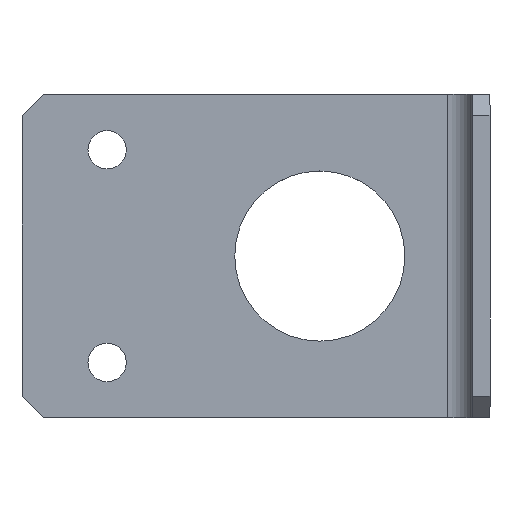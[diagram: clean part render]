
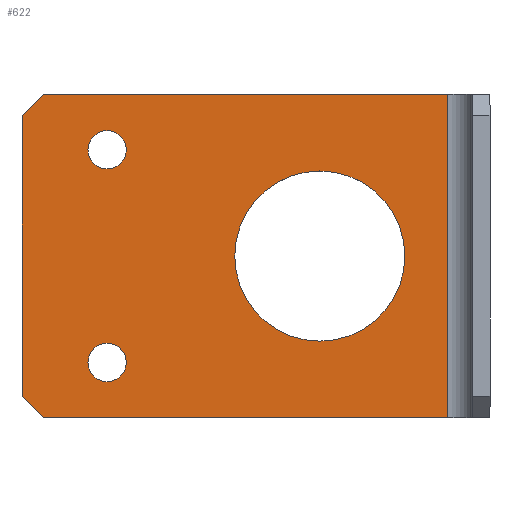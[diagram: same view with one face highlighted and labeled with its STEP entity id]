
A CAD part, top view. The second image highlights one B-rep face of the part: STEP entity #622.
In plain terms, the highlighted planar face has unit normal (0, 0, 1).
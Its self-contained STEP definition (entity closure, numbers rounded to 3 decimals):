
#90=FACE_BOUND('',#161,.T.);
#91=FACE_BOUND('',#162,.T.);
#92=FACE_BOUND('',#163,.T.);
#108=PLANE('',#679);
#129=FACE_OUTER_BOUND('',#160,.T.);
#160=EDGE_LOOP('',(#488,#489,#490,#491,#492,#493));
#161=EDGE_LOOP('',(#494));
#162=EDGE_LOOP('',(#495));
#163=EDGE_LOOP('',(#496));
#208=LINE('',#936,#265);
#212=LINE('',#944,#269);
#215=LINE('',#950,#272);
#216=LINE('',#952,#273);
#217=LINE('',#954,#274);
#218=LINE('',#955,#275);
#265=VECTOR('',#760,10.);
#269=VECTOR('',#766,10.);
#272=VECTOR('',#771,10.);
#273=VECTOR('',#772,10.);
#274=VECTOR('',#773,10.);
#275=VECTOR('',#774,10.);
#309=CIRCLE('',#670,20.);
#312=CIRCLE('',#680,4.5);
#313=CIRCLE('',#681,4.5);
#332=VERTEX_POINT('',#899);
#345=VERTEX_POINT('',#934);
#346=VERTEX_POINT('',#935);
#349=VERTEX_POINT('',#943);
#351=VERTEX_POINT('',#949);
#352=VERTEX_POINT('',#951);
#353=VERTEX_POINT('',#953);
#354=VERTEX_POINT('',#956);
#355=VERTEX_POINT('',#958);
#383=EDGE_CURVE('',#332,#332,#309,.T.);
#399=EDGE_CURVE('',#345,#346,#208,.T.);
#403=EDGE_CURVE('',#346,#349,#212,.T.);
#406=EDGE_CURVE('',#345,#351,#215,.T.);
#407=EDGE_CURVE('',#351,#352,#216,.T.);
#408=EDGE_CURVE('',#353,#352,#217,.T.);
#409=EDGE_CURVE('',#349,#353,#218,.T.);
#410=EDGE_CURVE('',#354,#354,#312,.T.);
#411=EDGE_CURVE('',#355,#355,#313,.T.);
#488=ORIENTED_EDGE('',*,*,#399,.F.);
#489=ORIENTED_EDGE('',*,*,#406,.T.);
#490=ORIENTED_EDGE('',*,*,#407,.T.);
#491=ORIENTED_EDGE('',*,*,#408,.F.);
#492=ORIENTED_EDGE('',*,*,#409,.F.);
#493=ORIENTED_EDGE('',*,*,#403,.F.);
#494=ORIENTED_EDGE('',*,*,#383,.T.);
#495=ORIENTED_EDGE('',*,*,#410,.T.);
#496=ORIENTED_EDGE('',*,*,#411,.T.);
#622=ADVANCED_FACE('',(#129,#90,#91,#92),#108,.T.);
#670=AXIS2_PLACEMENT_3D('',#901,#731,#732);
#679=AXIS2_PLACEMENT_3D('',#948,#769,#770);
#680=AXIS2_PLACEMENT_3D('',#957,#775,#776);
#681=AXIS2_PLACEMENT_3D('',#959,#777,#778);
#731=DIRECTION('center_axis',(0.,0.,-1.));
#732=DIRECTION('ref_axis',(-1.,0.,0.));
#760=DIRECTION('',(-0.707,0.707,0.));
#766=DIRECTION('',(0.,1.,0.));
#769=DIRECTION('center_axis',(0.,0.,1.));
#770=DIRECTION('ref_axis',(1.,0.,0.));
#771=DIRECTION('',(1.,0.,0.));
#772=DIRECTION('',(0.,1.,0.));
#773=DIRECTION('',(1.,0.,0.));
#774=DIRECTION('',(0.707,0.707,0.));
#775=DIRECTION('center_axis',(0.,0.,-1.));
#776=DIRECTION('ref_axis',(-1.,0.,0.));
#777=DIRECTION('center_axis',(0.,0.,-1.));
#778=DIRECTION('ref_axis',(-1.,0.,0.));
#899=CARTESIAN_POINT('',(-20.,38.,4.));
#901=CARTESIAN_POINT('Origin',(-40.,38.,4.));
#934=CARTESIAN_POINT('',(-105.,0.,4.));
#935=CARTESIAN_POINT('',(-110.,5.,4.));
#936=CARTESIAN_POINT('',(-107.5,2.5,4.));
#943=CARTESIAN_POINT('',(-110.,71.,4.));
#944=CARTESIAN_POINT('',(-110.,0.,4.));
#948=CARTESIAN_POINT('Origin',(-110.,0.,4.));
#949=CARTESIAN_POINT('',(-10.,0.,4.));
#950=CARTESIAN_POINT('',(-110.,0.,4.));
#951=CARTESIAN_POINT('',(-10.,76.,4.));
#952=CARTESIAN_POINT('',(-10.,0.,4.));
#953=CARTESIAN_POINT('',(-105.,76.,4.));
#954=CARTESIAN_POINT('',(-110.,76.,4.));
#955=CARTESIAN_POINT('',(-126.5,54.5,4.));
#956=CARTESIAN_POINT('',(-85.5,13.,4.));
#957=CARTESIAN_POINT('Origin',(-90.,13.,4.));
#958=CARTESIAN_POINT('',(-85.5,63.,4.));
#959=CARTESIAN_POINT('Origin',(-90.,63.,4.));
